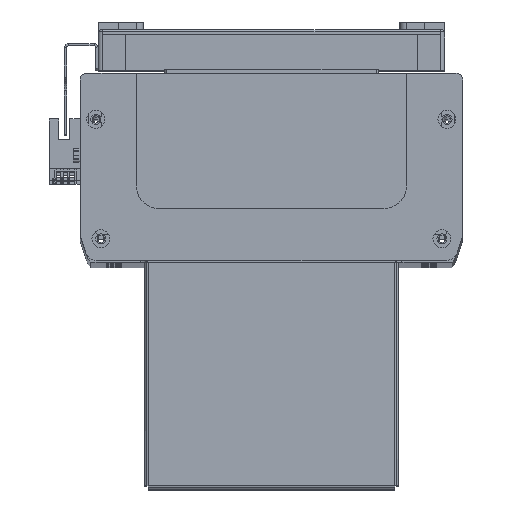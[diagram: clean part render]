
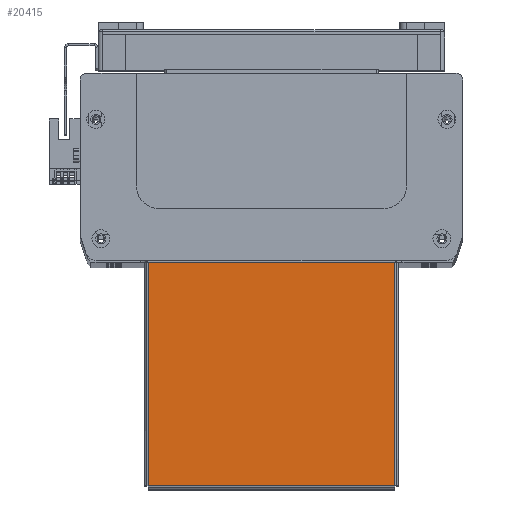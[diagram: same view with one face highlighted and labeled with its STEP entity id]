
A CAD part, top view. The second image highlights one B-rep face of the part: STEP entity #20415.
In plain terms, the highlighted planar face has unit normal (0, 0, 1).
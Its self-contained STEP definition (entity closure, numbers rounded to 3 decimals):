
#6478 = ORIENTED_EDGE ( 'NONE', *, *, #32909, .T. ) ;
#6489 = ORIENTED_EDGE ( 'NONE', *, *, #32778, .T. ) ;
#8493 = PLANE ( 'NONE',  #18434 ) ;
#8518 = DIRECTION ( 'NONE',  ( 1., 0., 0. ) ) ;
#8529 = DIRECTION ( 'NONE',  ( 0., 0., 1. ) ) ;
#8535 = CARTESIAN_POINT ( 'NONE',  ( 0., 0., 0. ) ) ;
#18434 = AXIS2_PLACEMENT_3D ( 'NONE', #8535, #8529, #8518 ) ;
#20415 = ADVANCED_FACE ( 'NONE', ( #50832 ), #8493, .T. ) ;
#24179 = ORIENTED_EDGE ( 'NONE', *, *, #32834, .T. ) ;
#24187 = ORIENTED_EDGE ( 'NONE', *, *, #32830, .T. ) ;
#32778 = EDGE_CURVE ( 'NONE', #36931, #36901, #39925, .T. ) ;
#32830 = EDGE_CURVE ( 'NONE', #36901, #36968, #47014, .T. ) ;
#32834 = EDGE_CURVE ( 'NONE', #36977, #36931, #47061, .T. ) ;
#32909 = EDGE_CURVE ( 'NONE', #36968, #36977, #47171, .T. ) ;
#35163 = EDGE_LOOP ( 'NONE', ( #6478, #24179, #6489, #24187 ) ) ;
#36154 = CARTESIAN_POINT ( 'NONE',  ( 54.763, -49.263, 0. ) ) ;
#36174 = CARTESIAN_POINT ( 'NONE',  ( -54.763, -49.263, 0. ) ) ;
#36193 = CARTESIAN_POINT ( 'NONE',  ( -54.763, 50., 0. ) ) ;
#36901 = VERTEX_POINT ( 'NONE', #42479 ) ;
#36931 = VERTEX_POINT ( 'NONE', #36154 ) ;
#36968 = VERTEX_POINT ( 'NONE', #36193 ) ;
#36977 = VERTEX_POINT ( 'NONE', #36174 ) ;
#39925 = LINE ( 'NONE', #52483, #39936 ) ;
#39936 = VECTOR ( 'NONE', #52511, 1000. ) ;
#42479 = CARTESIAN_POINT ( 'NONE',  ( 54.763, 50., 0. ) ) ;
#47014 = LINE ( 'NONE', #52586, #47026 ) ;
#47026 = VECTOR ( 'NONE', #52628, 1000. ) ;
#47061 = LINE ( 'NONE', #52640, #47063 ) ;
#47063 = VECTOR ( 'NONE', #52619, 1000. ) ;
#47171 = LINE ( 'NONE', #52750, #47189 ) ;
#47189 = VECTOR ( 'NONE', #52763, 1000. ) ;
#50832 = FACE_OUTER_BOUND ( 'NONE', #35163, .T. ) ;
#52483 = CARTESIAN_POINT ( 'NONE',  ( 54.763, -49.293, 0. ) ) ;
#52511 = DIRECTION ( 'NONE',  ( 0., 1., 0. ) ) ;
#52586 = CARTESIAN_POINT ( 'NONE',  ( -55.5, 50., 0. ) ) ;
#52619 = DIRECTION ( 'NONE',  ( 1., 0., 0. ) ) ;
#52628 = DIRECTION ( 'NONE',  ( -1., 0., 0. ) ) ;
#52640 = CARTESIAN_POINT ( 'NONE',  ( -54.793, -49.263, 0. ) ) ;
#52750 = CARTESIAN_POINT ( 'NONE',  ( -54.763, 50., 0. ) ) ;
#52763 = DIRECTION ( 'NONE',  ( 0., -1., 0. ) ) ;
